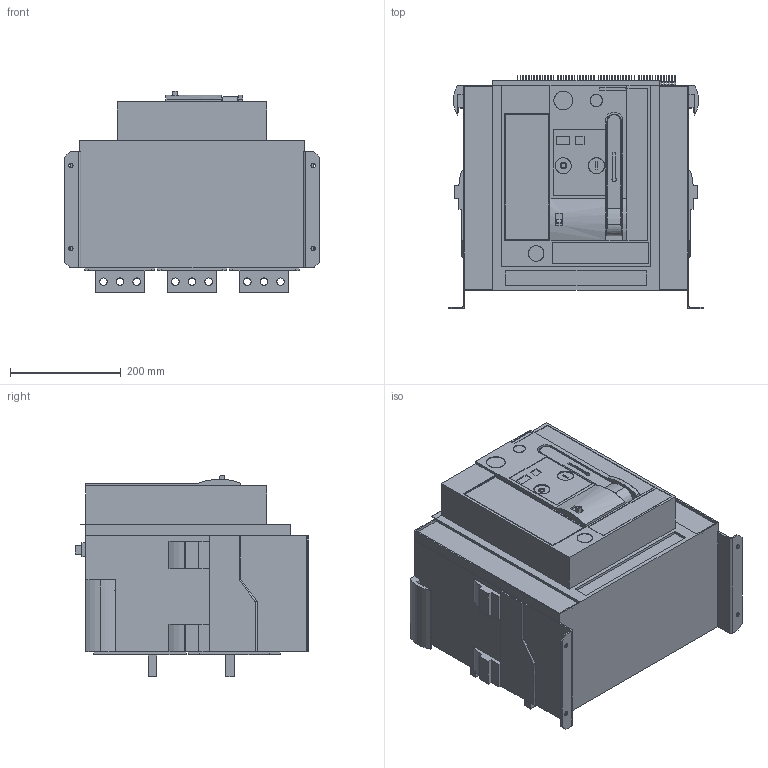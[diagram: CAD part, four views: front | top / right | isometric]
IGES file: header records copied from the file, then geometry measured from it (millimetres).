
Start section: SolidWorks IGES file using analytic representation for surfaces
Global section: file name: U:\14_RD\05_Technical_office\04_Office\Hrdinova\3D modely - IGES\Arion\ARION_WL1225-___32.IGS; native system: SolidWorks 2011; preprocessor: SolidWorks 2011; author: adhrja3; date: 170609.082013; units: millimetre
Bounding box: 460 x 422.4 x 364.16 mm (x, y, z)
Surface area: 1151636.2 mm2 (no closed solid volume)
Topology: 0 solids, 0 shells, 1241 faces, 11471 edges, 11471 vertices
Faces by surface type: bspline 1023, revolution 218
